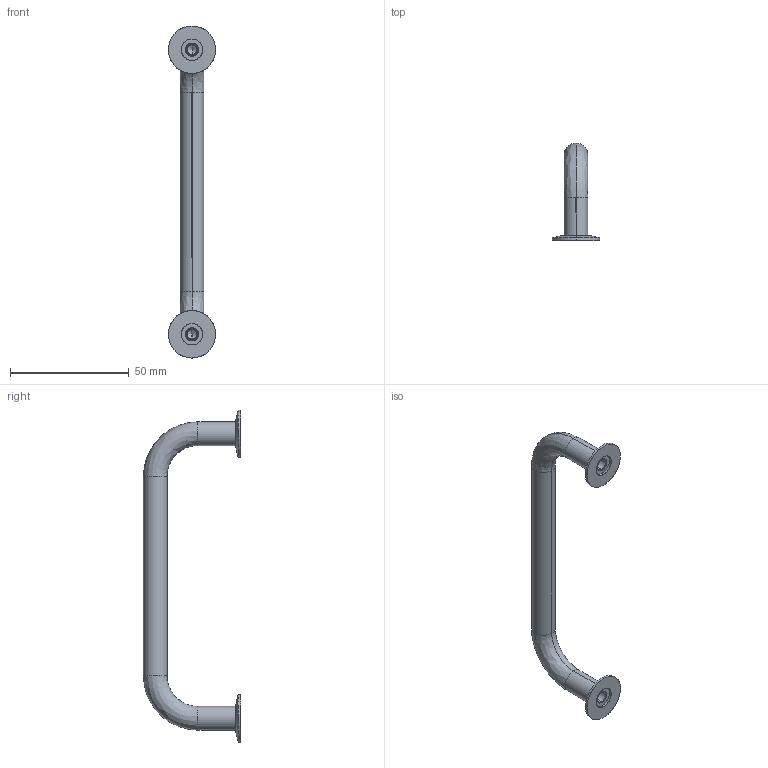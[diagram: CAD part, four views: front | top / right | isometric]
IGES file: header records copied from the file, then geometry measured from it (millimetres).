
Start section: SolidWorks IGES file using analytic representation for surfaces
Global section: file name: C:\Documents and Settings\IANO\Desktop\Temp File\Process pending\PCN pending\78700_v2\78700_v2_20170116_IGES\78700.W0512.igs; native system: SolidWorks 2009; preprocessor: SolidWorks 2009; author: IANO; date: 170310.095850; units: millimetre
Bounding box: 20 x 41 x 140 mm (x, y, z)
Surface area: 7205.8 mm2 (no closed solid volume)
Topology: 0 solids, 0 shells, 52 faces, 808 edges, 804 vertices
Faces by surface type: revolution 38, bspline 14
